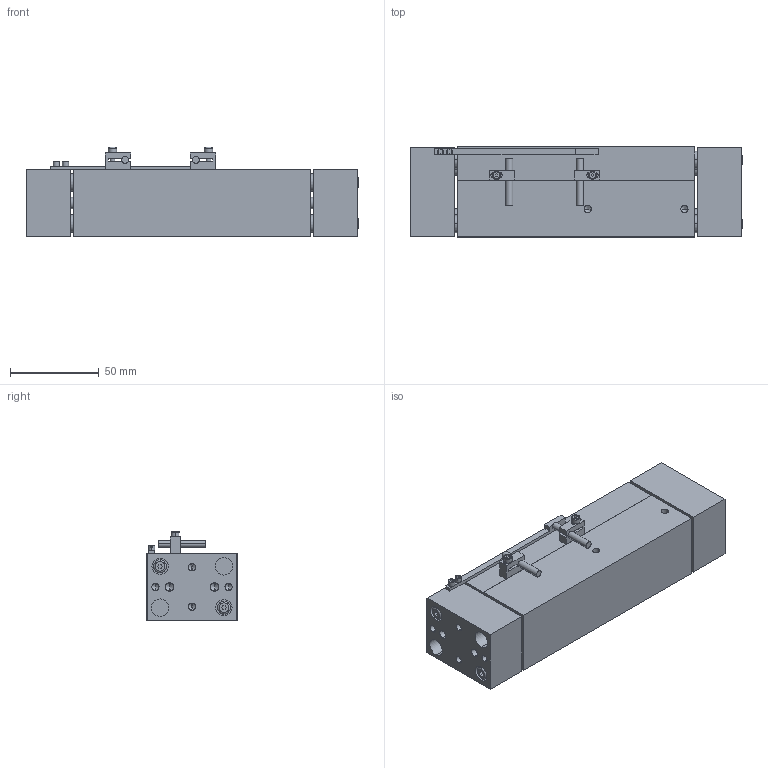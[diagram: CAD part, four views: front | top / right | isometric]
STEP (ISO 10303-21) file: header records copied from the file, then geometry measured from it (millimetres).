
FILE_DESCRIPTION (( 'STEP AP203' ), '1' );
FILE_NAME ('AGW-375-4X CLOSED in MM.STEP', '2013-08-23T00:02:26', ( 'Owner' ), ( '' ), 'SwSTEP 2.0', 'SolidWorks 2010', '' );
FILE_SCHEMA (( 'CONFIG_CONTROL_DESIGN' ));
Length unit declared in the file: millimetre
Products named in the file (8): _prod_agw-375-4x; AGW-375-4X CLOSED in MM; _sensrblk_agw-375-4x; _guiderod_agw-375-4x; _body_agw-375-4x; _sensr_agw-375-4x; _jawplt_agw375-4x; _sensrflag_agw-375-4x
Assembly tree (16 placements, depth 2):
  AGW-375-4X CLOSED in MM
    _prod_agw-375-4x  x4
    _guiderod_agw-375-4x  x4
    _sensrblk_agw-375-4x  x2
    _sensr_agw-375-4x  x2
    _jawplt_agw375-4x  x2
    _body_agw-375-4x
    _sensrflag_agw-375-4x
Bounding box: 187.39 x 50.8 x 50.5 mm (x, y, z)
Volume: 345412.6 mm3; surface area: 105369.7 mm2
Topology: 16 solids, 16 shells, 382 faces, 918 edges, 566 vertices
Faces by surface type: plane 164, cylinder 154, cone 52, torus 12
Entity records: 8118 total; most frequent: CARTESIAN_POINT 1299, DIRECTION 1274, ORIENTED_EDGE 1108, EDGE_CURVE 554, AXIS2_PLACEMENT_3D 473, VERTEX_POINT 358, VECTOR 328, LINE 328
